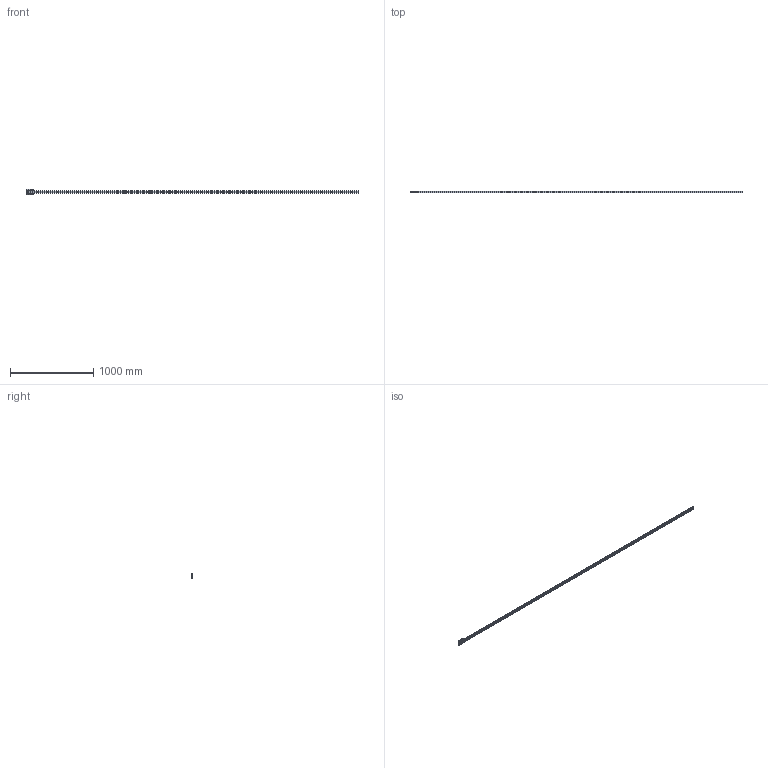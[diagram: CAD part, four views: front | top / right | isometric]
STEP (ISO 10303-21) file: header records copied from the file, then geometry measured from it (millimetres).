
FILE_DESCRIPTION( ( 'STEP AP203' ), '1' );
FILE_NAME( 'p:/temp/worker_11/temp/exporttempdir_3648_521_ybsKM/format_0/FDA15 84395A_4000-0-0.stp', '2021-02-04T01:50:08', ( 'License CC BY-ND 4.0' ), ( 'CADENAS' ), ' ', 'PARTsolutions', ' ' );
FILE_SCHEMA( ( 'CONFIG_CONTROL_DESIGN' ) );
Length unit declared in the file: millimetre
Products named in the file (5): FDA15 84395A_4000-0-0; _FD_15R 4000-0-0; _FD_15R Rollenhalter_1; _FD_15R 4000-0-0_2; _FD_15R Rollenhalter_2
Assembly tree (4 placements, depth 2):
  FDA15 84395A_4000-0-0
    _FD_15R 4000-0-0
    _FD_15R Rollenhalter_1
    _FD_15R 4000-0-0_2
    _FD_15R Rollenhalter_2
Bounding box: 4000 x 24 x 61.8 mm (x, y, z)
Volume: 1994974.1 mm3; surface area: 647400.7 mm2
Topology: 4 solids, 4 shells, 849 faces, 2219 edges, 1514 vertices
Faces by surface type: plane 502, cylinder 334, cone 12, torus 1
Full cylindrical faces by diameter (mm): 3.242 x8, 3.25 x1, 4.134 x4, 4.5 x134, 8 x134, 10 x1
Entity records: 24269 total; most frequent: DIRECTION 4159, CARTESIAN_POINT 4051, ORIENTED_EDGE 3544, EDGE_CURVE 1772, EDGE_LOOP 1554, AXIS2_PLACEMENT_3D 1544, VERTEX_POINT 1368, FACE_OUTER_BOUND 1132
